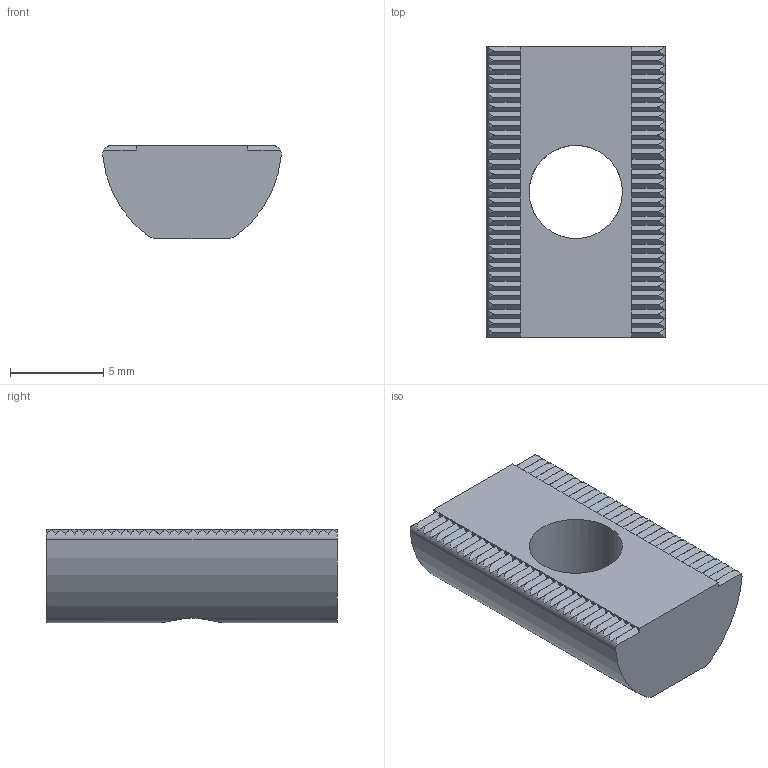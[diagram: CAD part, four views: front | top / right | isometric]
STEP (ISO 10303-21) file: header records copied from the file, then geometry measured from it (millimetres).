
FILE_DESCRIPTION (( 'STEP AP214' ), '1' );
FILE_NAME ('J3M6FDE.step', '2017-05-24T07:39:34', ( 'admin' ), ( '' ), 'SwSTEP 2.0', 'SolidWorks 2014', '' );
FILE_SCHEMA (( 'AUTOMOTIVE_DESIGN' ));
Length unit declared in the file: millimetre
Products named in the file (1): J3M6FDE
Bounding box: 9.57 x 15.6 x 5 mm (x, y, z)
Volume: 521.3 mm3; surface area: 533.3 mm2
Topology: 1 solids, 1 shells, 203 faces, 482 edges, 280 vertices
Faces by surface type: plane 193, cylinder 10
Entity records: 5656 total; most frequent: CARTESIAN_POINT 1370, ORIENTED_EDGE 964, DIRECTION 774, EDGE_CURVE 482, LINE 334, VECTOR 334, VERTEX_POINT 280, AXIS2_PLACEMENT_3D 220
